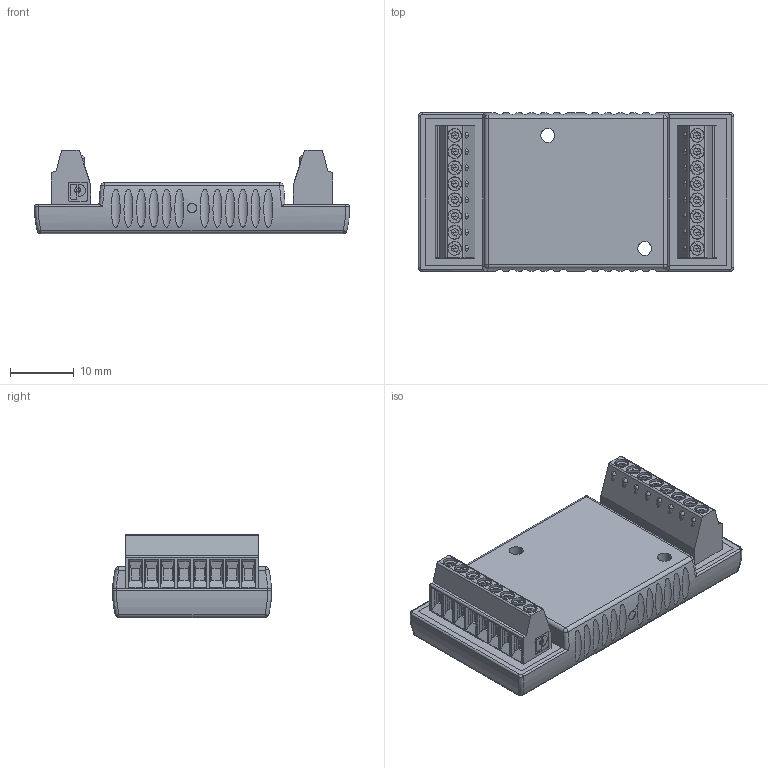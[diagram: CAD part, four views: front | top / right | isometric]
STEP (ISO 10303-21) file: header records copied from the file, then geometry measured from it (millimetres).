
FILE_DESCRIPTION(/* description */ (''),/* implementation_level */ '2;1');
FILE_NAME(/* name */ 'MC3002S.stp',/* time_stamp */ '2012-04-04T10:05:22+02:00',/* author */ ('DR. FRITZ FAULHABER GmbH & Co. KG'),/* organization */ ('DR. FRITZ FAULHABER GmbH & Co. KG'),/* preprocessor_version */ 'ST-DEVELOPER v11',/* originating_system */ 'SIEMENS PLM Software NX 7.5',/* authorisation */ '');
FILE_SCHEMA (('AUTOMOTIVE_DESIGN { 1 0 10303 214 1 1 1 1 }'));
Length unit declared in the file: millimetre
Products named in the file (1): MC3002S
Bounding box: 49.59 x 25 x 13.1 mm (x, y, z)
Volume: 9525.1 mm3; surface area: 4842.3 mm2
Topology: 1 solids, 1 shells, 858 faces, 1988 edges, 1227 vertices
Faces by surface type: plane 559, cylinder 243, sphere 40, bspline 12, cone 4
Full cylindrical faces by diameter (mm): 1.5 x1, 2 x4, 2.2 x2
Entity records: 31398 total; most frequent: CARTESIAN_POINT 6200, DIRECTION 4244, ORIENTED_EDGE 3936, EDGE_CURVE 1968, AXIS2_PLACEMENT_3D 1508, LINE 1228, VECTOR 1228, VERTEX_POINT 1226
